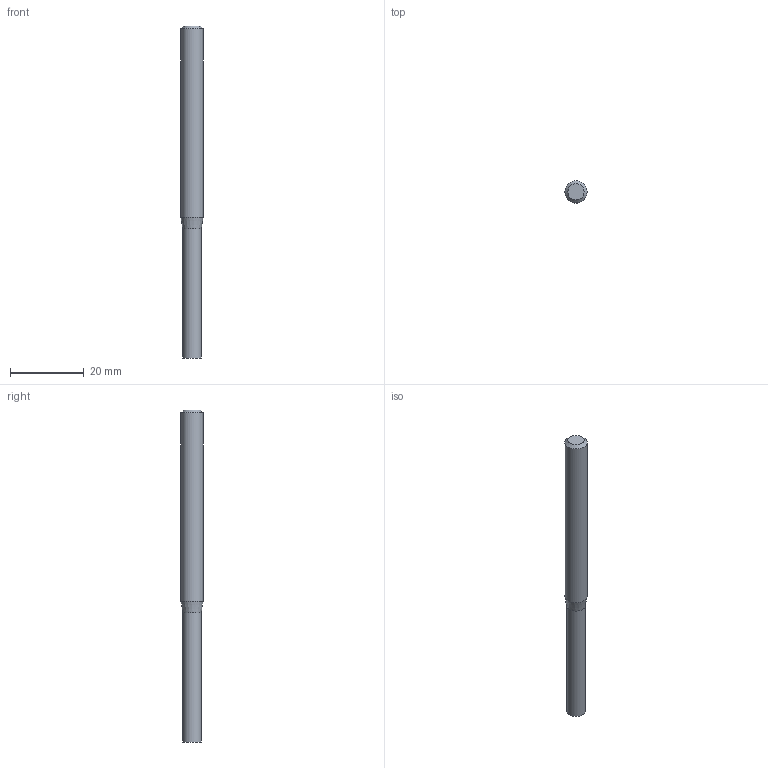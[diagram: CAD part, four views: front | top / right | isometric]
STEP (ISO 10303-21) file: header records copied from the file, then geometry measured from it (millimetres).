
FILE_DESCRIPTION((''),'2;1');
FILE_NAME('C:\Users\nsx150\Desktop\RSE230_20210427\01-00644-05003 RSE230 D5X35.step','2021-05-07T14:54:20',(''),(''),'STEP Write','Mastercam 2021 ... CNC Software, Inc.','');
FILE_SCHEMA(('AUTOMOTIVE_DESIGN'));
Length unit declared in the file: millimetre
Products named in the file (1): None
Bounding box: 6 x 6 x 90 mm (x, y, z)
Volume: 2222.8 mm3; surface area: 1659.7 mm2
Topology: 2 solids, 2 shells, 8 faces, 10 edges, 6 vertices
Faces by surface type: plane 4, cylinder 2, cone 2
Full cylindrical faces by diameter (mm): 5 x1, 6 x1
Entity records: 190 total; most frequent: DIRECTION 32, CARTESIAN_POINT 22, AXIS2_PLACEMENT_3D 16, ORIENTED_EDGE 12, EDGE_LOOP 12, STYLED_ITEM 11, ADVANCED_FACE 8, VERTEX_POINT 6
